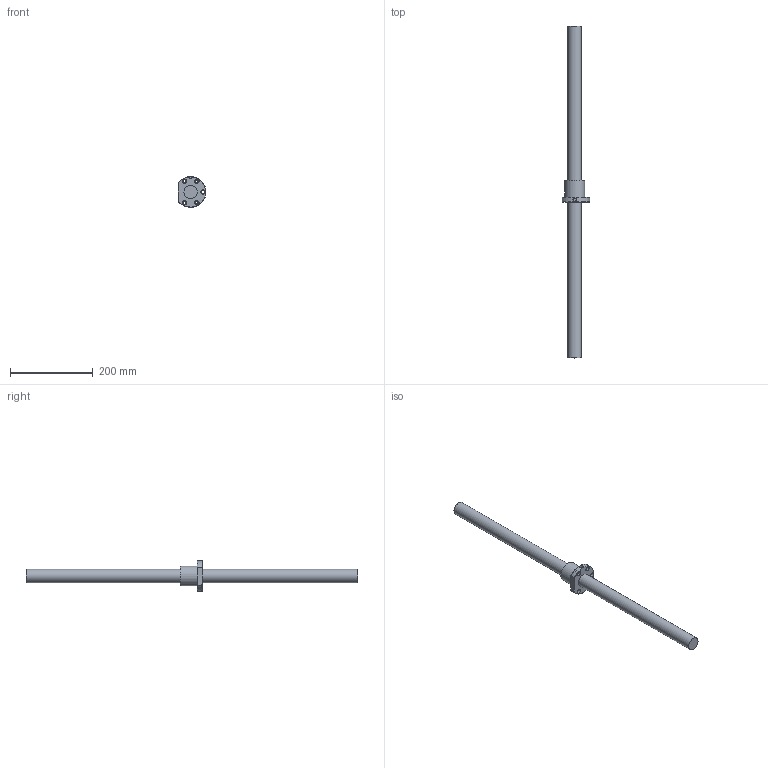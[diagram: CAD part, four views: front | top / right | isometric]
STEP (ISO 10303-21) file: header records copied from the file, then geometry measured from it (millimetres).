
FILE_DESCRIPTION(/* description */ (''),/* implementation_level */ '2;1');
FILE_NAME(/* name */ 'SFM0325T-4-N-NoneNone-800.stp',/* time_stamp */ '2014-09-10T16:12:54+08:00',/* author */ (''),/* organization */ (''),/* preprocessor_version */ 'ST-DEVELOPER v11',/* originating_system */ 'SIEMENS UGS NX 6.0',/* authorisation */ '');
FILE_SCHEMA (('AUTOMOTIVE_DESIGN { 1 0 10303 214 1 1 1 1 }'));
Length unit declared in the file: millimetre
Products named in the file (1): SFM0325T-4-N-NoneNone-800
Bounding box: 66.92 x 800 x 73.89 mm (x, y, z)
Volume: 719778.3 mm3; surface area: 104173.6 mm2
Topology: 2 solids, 2 shells, 30 faces, 58 edges, 39 vertices
Faces by surface type: cylinder 15, plane 12, torus 3
Full cylindrical faces by diameter (mm): 6.5 x5, 8 x1, 11 x5, 32 x2, 48 x1
Entity records: 849 total; most frequent: CARTESIAN_POINT 226, DIRECTION 130, ORIENTED_EDGE 82, EDGE_LOOP 64, AXIS2_PLACEMENT_3D 63, FACE_BOUND 58, EDGE_CURVE 41, VERTEX_POINT 37
